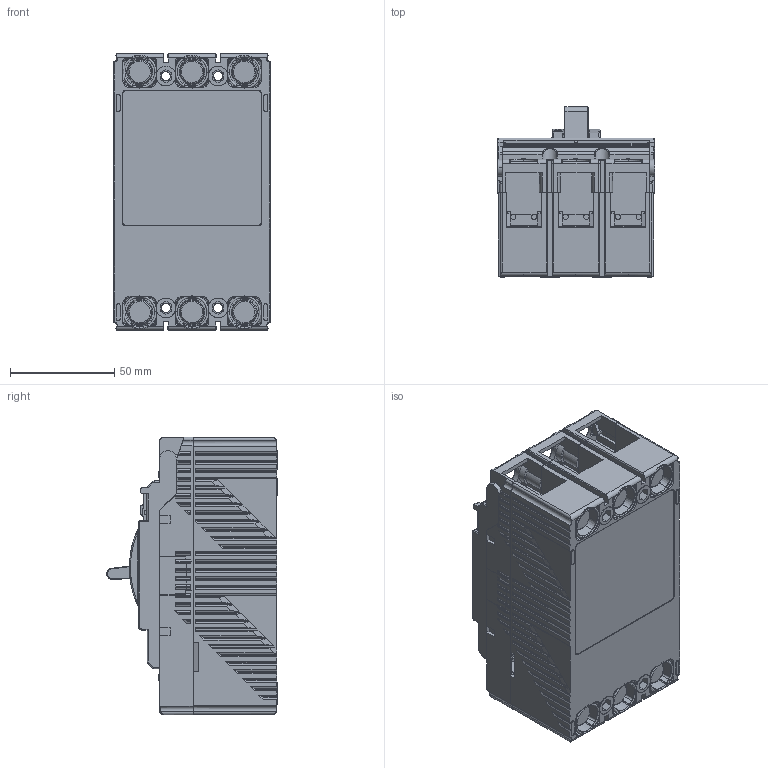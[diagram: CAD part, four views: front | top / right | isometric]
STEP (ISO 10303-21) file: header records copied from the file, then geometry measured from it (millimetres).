
FILE_DESCRIPTION (( 'STEP AP214' ), '1' );
FILE_NAME ('sgm6s-125-3p-1.STEP', '2023-11-05T07:55:11', ( 'Maxge' ), ( '' ), 'SwSTEP 2.0', 'SolidWorks 2016', '' );
FILE_SCHEMA (( 'AUTOMOTIVE_DESIGN' ));
Length unit declared in the file: millimetre
Products named in the file (20): SGM6S-125-3P_QUILT_18; SGM6S-125-3P_笢; sgm6s-125-3p-1; SGM6S-125-3P_QUILT_13; SGM6S-125-3P_QUILT_19; SGM6S-125-3P_QUILT_4; SGM6S-125-3P_QUILT_12; SGM6S-125-3P_QUILT_9; SGM6S-125-3P_QUILT_17; SGM6S-125-3P_QUILT_20; SGM6S-125-3P_QUILT_11; SGM6S-125-3P_QUILT_6_1; SGM6S-125-3P_QUILT_3_1; SGM6S-125-3P_QUILT_5; SGM6S-125-3P_QUILT_16; SGM6S-125-3P_QUILT_2-1_1; SGM6S-125-3P_QUILT_1_1; SGM6S-125-3P_QUILT_10; SGM6S-125-3P_QUILT_7_1; SGM6S-125-3P_QUILT_8_1
Assembly tree (19 placements, depth 2):
  sgm6s-125-3p-1
    SGM6S-125-3P_QUILT_1_1
    SGM6S-125-3P_QUILT_2-1_1
    SGM6S-125-3P_QUILT_3_1
    SGM6S-125-3P_QUILT_4
    SGM6S-125-3P_QUILT_5
    SGM6S-125-3P_QUILT_6_1
    SGM6S-125-3P_QUILT_7_1
    SGM6S-125-3P_QUILT_8_1
    SGM6S-125-3P_QUILT_9
    SGM6S-125-3P_QUILT_10
    SGM6S-125-3P_QUILT_11
    SGM6S-125-3P_QUILT_12
    SGM6S-125-3P_QUILT_13
    SGM6S-125-3P_QUILT_16
    SGM6S-125-3P_QUILT_17
    SGM6S-125-3P_QUILT_18
    SGM6S-125-3P_QUILT_19
    SGM6S-125-3P_QUILT_20
    SGM6S-125-3P_笢
Bounding box: 75.4 x 81.6 x 132.8 mm (x, y, z)
Volume: 486534.1 mm3; surface area: 175480.1 mm2
Topology: 22 solids, 23 shells, 4019 faces, 11257 edges, 7355 vertices
Faces by surface type: plane 2688, cylinder 767, bspline 210, torus 177, cone 128, sphere 49
Entity records: 226281 total; most frequent: CARTESIAN_POINT 81769, ORIENTED_EDGE 22378, DIRECTION 18095, EDGE_CURVE 11189, VECTOR 7757, LINE 7757, VERTEX_POINT 7316, AXIS2_PLACEMENT_3D 5169
